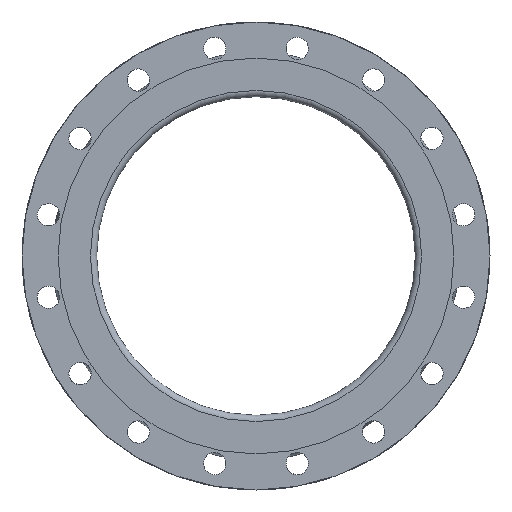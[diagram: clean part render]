
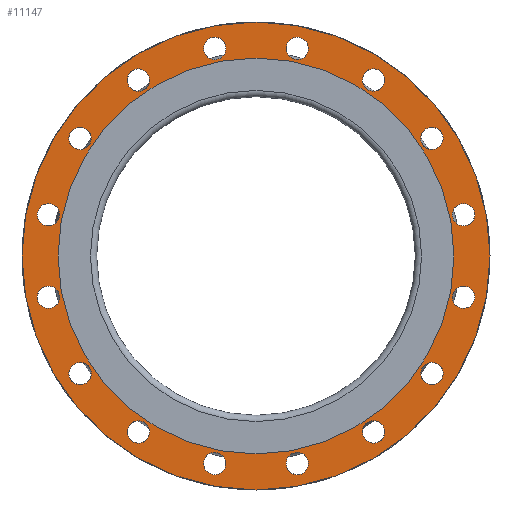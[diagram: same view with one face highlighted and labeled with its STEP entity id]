
A CAD part, left-side view. The second image highlights one B-rep face of the part: STEP entity #11147.
In plain terms, the highlighted planar face has unit normal (-1, 0, 0).
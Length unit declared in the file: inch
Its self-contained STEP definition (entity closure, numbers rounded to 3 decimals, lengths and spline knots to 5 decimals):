
#1388=PLANE('',#11841);
#1586=FACE_BOUND('',#2523,.T.);
#1587=FACE_BOUND('',#2524,.T.);
#1588=FACE_BOUND('',#2525,.T.);
#1589=FACE_BOUND('',#2526,.T.);
#1590=FACE_BOUND('',#2527,.T.);
#1591=FACE_BOUND('',#2528,.T.);
#1592=FACE_BOUND('',#2529,.T.);
#1593=FACE_BOUND('',#2530,.T.);
#1594=FACE_BOUND('',#2531,.T.);
#1595=FACE_BOUND('',#2532,.T.);
#1596=FACE_BOUND('',#2533,.T.);
#1597=FACE_BOUND('',#2534,.T.);
#1598=FACE_BOUND('',#2535,.T.);
#1599=FACE_BOUND('',#2536,.T.);
#1600=FACE_BOUND('',#2537,.T.);
#1601=FACE_BOUND('',#2538,.T.);
#1602=FACE_BOUND('',#2539,.T.);
#1870=FACE_OUTER_BOUND('',#2522,.T.);
#2522=EDGE_LOOP('',(#6990));
#2523=EDGE_LOOP('',(#6991));
#2524=EDGE_LOOP('',(#6992));
#2525=EDGE_LOOP('',(#6993));
#2526=EDGE_LOOP('',(#6994));
#2527=EDGE_LOOP('',(#6995));
#2528=EDGE_LOOP('',(#6996));
#2529=EDGE_LOOP('',(#6997));
#2530=EDGE_LOOP('',(#6998));
#2531=EDGE_LOOP('',(#6999));
#2532=EDGE_LOOP('',(#7000));
#2533=EDGE_LOOP('',(#7001));
#2534=EDGE_LOOP('',(#7002));
#2535=EDGE_LOOP('',(#7003));
#2536=EDGE_LOOP('',(#7004));
#2537=EDGE_LOOP('',(#7005));
#2538=EDGE_LOOP('',(#7006));
#2539=EDGE_LOOP('',(#7007));
#3363=CIRCLE('',#11747,0.5625);
#3365=CIRCLE('',#11750,0.5625);
#3367=CIRCLE('',#11753,0.5625);
#3369=CIRCLE('',#11756,0.5625);
#3371=CIRCLE('',#11759,0.5625);
#3373=CIRCLE('',#11762,0.5625);
#3375=CIRCLE('',#11765,0.5625);
#3377=CIRCLE('',#11768,0.5625);
#3379=CIRCLE('',#11771,0.5625);
#3381=CIRCLE('',#11774,0.5625);
#3383=CIRCLE('',#11777,0.5625);
#3385=CIRCLE('',#11780,0.5625);
#3387=CIRCLE('',#11783,0.5625);
#3389=CIRCLE('',#11786,0.5625);
#3391=CIRCLE('',#11789,0.5625);
#3393=CIRCLE('',#11792,0.5625);
#3426=CIRCLE('',#11842,11.75);
#3427=CIRCLE('',#11843,9.9375);
#4247=VERTEX_POINT('',#16903);
#4249=VERTEX_POINT('',#16908);
#4251=VERTEX_POINT('',#16913);
#4253=VERTEX_POINT('',#16918);
#4255=VERTEX_POINT('',#16923);
#4257=VERTEX_POINT('',#16928);
#4259=VERTEX_POINT('',#16933);
#4261=VERTEX_POINT('',#16938);
#4263=VERTEX_POINT('',#16943);
#4265=VERTEX_POINT('',#16948);
#4267=VERTEX_POINT('',#16953);
#4269=VERTEX_POINT('',#16958);
#4271=VERTEX_POINT('',#16963);
#4273=VERTEX_POINT('',#16968);
#4275=VERTEX_POINT('',#16973);
#4277=VERTEX_POINT('',#16978);
#4310=VERTEX_POINT('',#17061);
#4311=VERTEX_POINT('',#17063);
#5355=EDGE_CURVE('',#4247,#4247,#3363,.T.);
#5357=EDGE_CURVE('',#4249,#4249,#3365,.T.);
#5359=EDGE_CURVE('',#4251,#4251,#3367,.T.);
#5361=EDGE_CURVE('',#4253,#4253,#3369,.T.);
#5363=EDGE_CURVE('',#4255,#4255,#3371,.T.);
#5365=EDGE_CURVE('',#4257,#4257,#3373,.T.);
#5367=EDGE_CURVE('',#4259,#4259,#3375,.T.);
#5369=EDGE_CURVE('',#4261,#4261,#3377,.T.);
#5371=EDGE_CURVE('',#4263,#4263,#3379,.T.);
#5373=EDGE_CURVE('',#4265,#4265,#3381,.T.);
#5375=EDGE_CURVE('',#4267,#4267,#3383,.T.);
#5377=EDGE_CURVE('',#4269,#4269,#3385,.T.);
#5379=EDGE_CURVE('',#4271,#4271,#3387,.T.);
#5381=EDGE_CURVE('',#4273,#4273,#3389,.T.);
#5383=EDGE_CURVE('',#4275,#4275,#3391,.T.);
#5385=EDGE_CURVE('',#4277,#4277,#3393,.T.);
#5418=EDGE_CURVE('',#4310,#4310,#3426,.T.);
#5419=EDGE_CURVE('',#4311,#4311,#3427,.T.);
#6990=ORIENTED_EDGE('',*,*,#5418,.F.);
#6991=ORIENTED_EDGE('',*,*,#5355,.T.);
#6992=ORIENTED_EDGE('',*,*,#5357,.T.);
#6993=ORIENTED_EDGE('',*,*,#5359,.T.);
#6994=ORIENTED_EDGE('',*,*,#5361,.T.);
#6995=ORIENTED_EDGE('',*,*,#5363,.T.);
#6996=ORIENTED_EDGE('',*,*,#5365,.T.);
#6997=ORIENTED_EDGE('',*,*,#5367,.T.);
#6998=ORIENTED_EDGE('',*,*,#5369,.T.);
#6999=ORIENTED_EDGE('',*,*,#5371,.T.);
#7000=ORIENTED_EDGE('',*,*,#5373,.T.);
#7001=ORIENTED_EDGE('',*,*,#5375,.T.);
#7002=ORIENTED_EDGE('',*,*,#5377,.T.);
#7003=ORIENTED_EDGE('',*,*,#5379,.T.);
#7004=ORIENTED_EDGE('',*,*,#5381,.T.);
#7005=ORIENTED_EDGE('',*,*,#5383,.T.);
#7006=ORIENTED_EDGE('',*,*,#5385,.T.);
#7007=ORIENTED_EDGE('',*,*,#5419,.T.);
#11147=ADVANCED_FACE('',(#1870,#1586,#1587,#1588,#1589,#1590,#1591,#1592,
#1593,#1594,#1595,#1596,#1597,#1598,#1599,#1600,#1601,#1602),#1388,.T.);
#11747=AXIS2_PLACEMENT_3D('',#16904,#13255,#13256);
#11750=AXIS2_PLACEMENT_3D('',#16909,#13261,#13262);
#11753=AXIS2_PLACEMENT_3D('',#16914,#13267,#13268);
#11756=AXIS2_PLACEMENT_3D('',#16919,#13273,#13274);
#11759=AXIS2_PLACEMENT_3D('',#16924,#13279,#13280);
#11762=AXIS2_PLACEMENT_3D('',#16929,#13285,#13286);
#11765=AXIS2_PLACEMENT_3D('',#16934,#13291,#13292);
#11768=AXIS2_PLACEMENT_3D('',#16939,#13297,#13298);
#11771=AXIS2_PLACEMENT_3D('',#16944,#13303,#13304);
#11774=AXIS2_PLACEMENT_3D('',#16949,#13309,#13310);
#11777=AXIS2_PLACEMENT_3D('',#16954,#13315,#13316);
#11780=AXIS2_PLACEMENT_3D('',#16959,#13321,#13322);
#11783=AXIS2_PLACEMENT_3D('',#16964,#13327,#13328);
#11786=AXIS2_PLACEMENT_3D('',#16969,#13333,#13334);
#11789=AXIS2_PLACEMENT_3D('',#16974,#13339,#13340);
#11792=AXIS2_PLACEMENT_3D('',#16979,#13345,#13346);
#11841=AXIS2_PLACEMENT_3D('',#17060,#13443,#13444);
#11842=AXIS2_PLACEMENT_3D('',#17062,#13445,#13446);
#11843=AXIS2_PLACEMENT_3D('',#17064,#13447,#13448);
#13255=DIRECTION('center_axis',(1.,0.,0.));
#13256=DIRECTION('ref_axis',(0.,-0.383,-0.924));
#13261=DIRECTION('center_axis',(1.,0.,0.));
#13262=DIRECTION('ref_axis',(0.,-0.707,-0.707));
#13267=DIRECTION('center_axis',(1.,0.,0.));
#13268=DIRECTION('ref_axis',(0.,-0.924,-0.383));
#13273=DIRECTION('center_axis',(1.,0.,0.));
#13274=DIRECTION('ref_axis',(0.,-1.,0.));
#13279=DIRECTION('center_axis',(1.,0.,0.));
#13280=DIRECTION('ref_axis',(0.,-0.924,0.383));
#13285=DIRECTION('center_axis',(1.,0.,0.));
#13286=DIRECTION('ref_axis',(0.,-0.707,0.707));
#13291=DIRECTION('center_axis',(1.,0.,0.));
#13292=DIRECTION('ref_axis',(0.,-0.383,0.924));
#13297=DIRECTION('center_axis',(1.,0.,0.));
#13298=DIRECTION('ref_axis',(0.,0.,1.));
#13303=DIRECTION('center_axis',(1.,0.,0.));
#13304=DIRECTION('ref_axis',(0.,0.383,0.924));
#13309=DIRECTION('center_axis',(1.,0.,0.));
#13310=DIRECTION('ref_axis',(0.,0.707,0.707));
#13315=DIRECTION('center_axis',(1.,0.,0.));
#13316=DIRECTION('ref_axis',(0.,0.924,0.383));
#13321=DIRECTION('center_axis',(1.,0.,0.));
#13322=DIRECTION('ref_axis',(0.,1.,0.));
#13327=DIRECTION('center_axis',(1.,0.,0.));
#13328=DIRECTION('ref_axis',(0.,0.924,-0.383));
#13333=DIRECTION('center_axis',(1.,0.,0.));
#13334=DIRECTION('ref_axis',(0.,0.707,-0.707));
#13339=DIRECTION('center_axis',(1.,0.,0.));
#13340=DIRECTION('ref_axis',(0.,0.383,-0.924));
#13345=DIRECTION('center_axis',(1.,0.,0.));
#13346=DIRECTION('ref_axis',(0.,0.,-1.));
#13443=DIRECTION('center_axis',(-1.,0.,0.));
#13444=DIRECTION('ref_axis',(0.,0.,1.));
#13445=DIRECTION('center_axis',(1.,0.,0.));
#13446=DIRECTION('ref_axis',(0.,0.,-1.));
#13447=DIRECTION('center_axis',(1.,0.,0.));
#13448=DIRECTION('ref_axis',(0.,0.,-1.));
#16903=CARTESIAN_POINT('',(-6.,9.04962,-5.38325));
#16904=CARTESIAN_POINT('Origin',(-6.,8.83436,-5.90293));
#16908=CARTESIAN_POINT('',(-6.,6.30068,-8.43662));
#16909=CARTESIAN_POINT('Origin',(-6.,5.90293,-8.83436));
#16913=CARTESIAN_POINT('',(-6.,2.59252,-10.20558));
#16914=CARTESIAN_POINT('Origin',(-6.,2.07283,-10.42084));
#16918=CARTESIAN_POINT('',(-6.,-1.51033,-10.42084));
#16919=CARTESIAN_POINT('Origin',(-6.,-2.07283,-10.42084));
#16923=CARTESIAN_POINT('',(-6.,-5.38325,-9.04962));
#16924=CARTESIAN_POINT('Origin',(-6.,-5.90293,-8.83436));
#16928=CARTESIAN_POINT('',(-6.,-8.43662,-6.30068));
#16929=CARTESIAN_POINT('Origin',(-6.,-8.83436,-5.90293));
#16933=CARTESIAN_POINT('',(-6.,-10.20558,-2.59252));
#16934=CARTESIAN_POINT('Origin',(-6.,-10.42084,-2.07283));
#16938=CARTESIAN_POINT('',(-6.,-10.42084,1.51033));
#16939=CARTESIAN_POINT('Origin',(-6.,-10.42084,2.07283));
#16943=CARTESIAN_POINT('',(-6.,-9.04962,5.38325));
#16944=CARTESIAN_POINT('Origin',(-6.,-8.83436,5.90293));
#16948=CARTESIAN_POINT('',(-6.,-6.30068,8.43662));
#16949=CARTESIAN_POINT('Origin',(-6.,-5.90293,8.83436));
#16953=CARTESIAN_POINT('',(-6.,-2.59252,10.20558));
#16954=CARTESIAN_POINT('Origin',(-6.,-2.07283,10.42084));
#16958=CARTESIAN_POINT('',(-6.,1.51033,10.42084));
#16959=CARTESIAN_POINT('Origin',(-6.,2.07283,10.42084));
#16963=CARTESIAN_POINT('',(-6.,5.38325,9.04962));
#16964=CARTESIAN_POINT('Origin',(-6.,5.90293,8.83436));
#16968=CARTESIAN_POINT('',(-6.,8.43662,6.30068));
#16969=CARTESIAN_POINT('Origin',(-6.,8.83436,5.90293));
#16973=CARTESIAN_POINT('',(-6.,10.20558,2.59252));
#16974=CARTESIAN_POINT('Origin',(-6.,10.42084,2.07283));
#16978=CARTESIAN_POINT('',(-6.,10.42084,-1.51033));
#16979=CARTESIAN_POINT('Origin',(-6.,10.42084,-2.07283));
#17060=CARTESIAN_POINT('Origin',(-6.,11.75,0.));
#17061=CARTESIAN_POINT('',(-6.,11.75,0.));
#17062=CARTESIAN_POINT('Origin',(-6.,0.,0.));
#17063=CARTESIAN_POINT('',(-6.,9.9375,0.));
#17064=CARTESIAN_POINT('Origin',(-6.,0.,0.));
